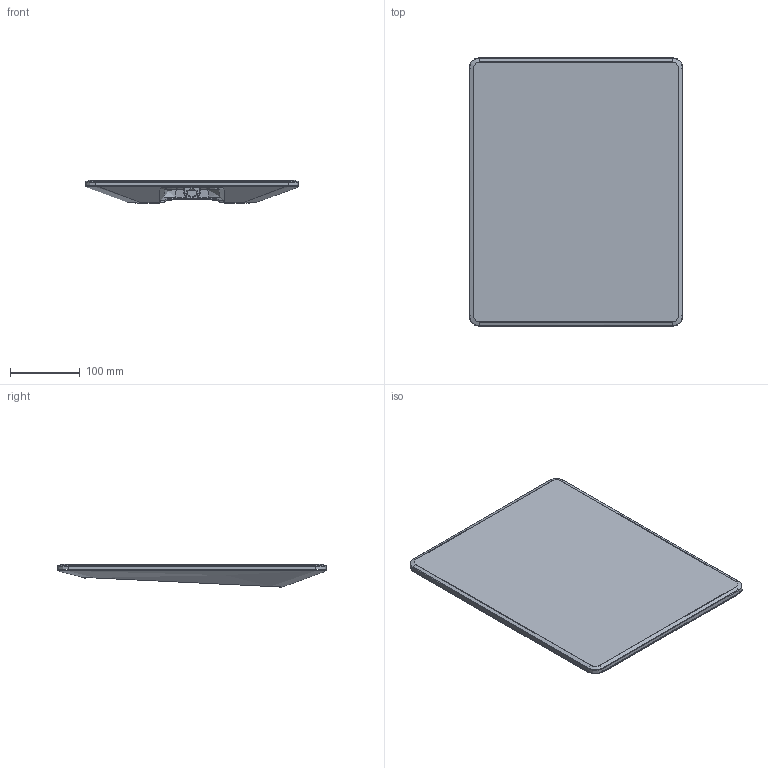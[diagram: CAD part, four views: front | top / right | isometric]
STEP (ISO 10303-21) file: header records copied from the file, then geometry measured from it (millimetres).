
FILE_DESCRIPTION(/* description */ (''),/* implementation_level */ '2;1');
FILE_NAME(/* name */ 'Starlink_V5.stp',/* time_stamp */ '2026-07-07T17:15:46-05:00',/* author */ (''),/* organization */ (''),/* preprocessor_version */ 'ST-DEVELOPER v20',/* originating_system */ 'SIEMENS PLM Software NX2406.9101',/* authorisation */ '');
FILE_SCHEMA (('AUTOMOTIVE_DESIGN { 1 0 10303 214 3 1 1 1 }'));
Length unit declared in the file: millimetre
Products named in the file (1): 765680_objects
Bounding box: 305.98 x 384.39 x 33.49 mm (x, y, z)
Volume: 2244469.8 mm3; surface area: 490778.2 mm2
Topology: 2 solids, 2 shells, 394 faces, 940 edges, 544 vertices
Faces by surface type: bspline 177, cylinder 94, plane 61, cone 26, torus 26, revolution 4, extrusion 4, sphere 2
Entity records: 14996 total; most frequent: CARTESIAN_POINT 7040, ORIENTED_EDGE 1848, DIRECTION 1390, EDGE_CURVE 924, AXIS2_PLACEMENT_3D 564, VERTEX_POINT 544, EDGE_LOOP 404, ADVANCED_FACE 394
